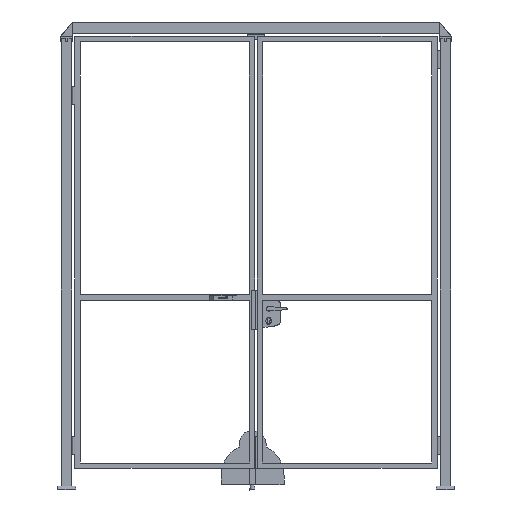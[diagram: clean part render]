
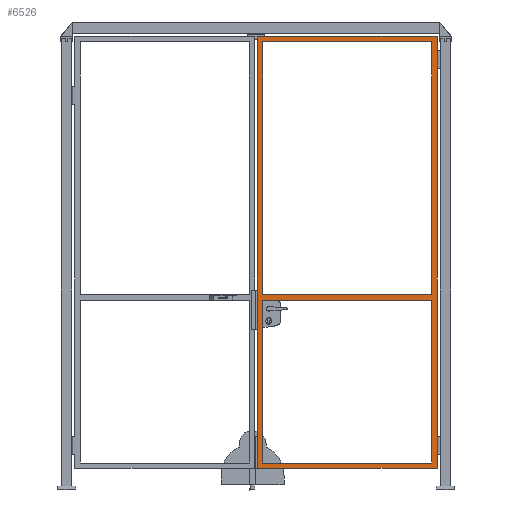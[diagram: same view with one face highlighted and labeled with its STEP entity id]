
A CAD part, front view. The second image highlights one B-rep face of the part: STEP entity #6526.
In plain terms, the highlighted planar face has unit normal (0, -1, 0) as drawn and (0, 1, 0) by its records, which use the part's own axes.
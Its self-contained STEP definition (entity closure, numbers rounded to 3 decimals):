
#805=FACE_BOUND('',#1289,.T.);
#806=FACE_BOUND('',#1290,.T.);
#949=FACE_OUTER_BOUND('',#1288,.T.);
#1288=EDGE_LOOP('',(#5035,#5036,#5037,#5038));
#1289=EDGE_LOOP('',(#5039,#5040,#5041,#5042));
#1290=EDGE_LOOP('',(#5043,#5044,#5045,#5046));
#1787=LINE('',#9704,#2530);
#1789=LINE('',#9710,#2532);
#1794=LINE('',#9719,#2537);
#1804=LINE('',#9739,#2547);
#1808=LINE('',#9746,#2551);
#1809=LINE('',#9748,#2552);
#1810=LINE('',#9750,#2553);
#1811=LINE('',#9752,#2554);
#1813=LINE('',#9757,#2556);
#1817=LINE('',#9764,#2560);
#1818=LINE('',#9766,#2561);
#1819=LINE('',#9768,#2562);
#2530=VECTOR('',#7781,1.);
#2532=VECTOR('',#7785,1.);
#2537=VECTOR('',#7792,1.);
#2547=VECTOR('',#7806,1.);
#2551=VECTOR('',#7812,1.);
#2552=VECTOR('',#7815,1.);
#2553=VECTOR('',#7818,1.);
#2554=VECTOR('',#7821,1.);
#2556=VECTOR('',#7825,1.);
#2560=VECTOR('',#7831,1.);
#2561=VECTOR('',#7834,1.);
#2562=VECTOR('',#7837,1.);
#3199=VERTEX_POINT('',#9698);
#3201=VERTEX_POINT('',#9702);
#3202=VERTEX_POINT('',#9706);
#3204=VERTEX_POINT('',#9709);
#3207=VERTEX_POINT('',#9717);
#3215=VERTEX_POINT('',#9738);
#3216=VERTEX_POINT('',#9742);
#3217=VERTEX_POINT('',#9744);
#3218=VERTEX_POINT('',#9754);
#3219=VERTEX_POINT('',#9756);
#3220=VERTEX_POINT('',#9760);
#3221=VERTEX_POINT('',#9762);
#3891=EDGE_CURVE('',#3201,#3199,#1787,.T.);
#3893=EDGE_CURVE('',#3202,#3204,#1789,.T.);
#3898=EDGE_CURVE('',#3202,#3207,#1794,.T.);
#3908=EDGE_CURVE('',#3215,#3204,#1804,.T.);
#3912=EDGE_CURVE('',#3216,#3217,#1808,.T.);
#3913=EDGE_CURVE('',#3207,#3215,#1809,.T.);
#3914=EDGE_CURVE('',#3217,#3199,#1810,.T.);
#3915=EDGE_CURVE('',#3201,#3216,#1811,.T.);
#3917=EDGE_CURVE('',#3218,#3219,#1813,.T.);
#3921=EDGE_CURVE('',#3221,#3220,#1817,.T.);
#3922=EDGE_CURVE('',#3219,#3221,#1818,.T.);
#3923=EDGE_CURVE('',#3218,#3220,#1819,.T.);
#5035=ORIENTED_EDGE('',*,*,#3922,.F.);
#5036=ORIENTED_EDGE('',*,*,#3917,.F.);
#5037=ORIENTED_EDGE('',*,*,#3923,.T.);
#5038=ORIENTED_EDGE('',*,*,#3921,.F.);
#5039=ORIENTED_EDGE('',*,*,#3898,.T.);
#5040=ORIENTED_EDGE('',*,*,#3913,.T.);
#5041=ORIENTED_EDGE('',*,*,#3908,.T.);
#5042=ORIENTED_EDGE('',*,*,#3893,.F.);
#5043=ORIENTED_EDGE('',*,*,#3891,.F.);
#5044=ORIENTED_EDGE('',*,*,#3915,.T.);
#5045=ORIENTED_EDGE('',*,*,#3912,.T.);
#5046=ORIENTED_EDGE('',*,*,#3914,.T.);
#6268=PLANE('',#6915);
#6526=ADVANCED_FACE('',(#949,#805,#806),#6268,.F.);
#6915=AXIS2_PLACEMENT_3D('',#9767,#7835,#7836);
#7781=DIRECTION('',(-1.,0.,0.));
#7785=DIRECTION('',(1.,0.,0.));
#7792=DIRECTION('',(0.,0.,-1.));
#7806=DIRECTION('',(0.,0.,1.));
#7812=DIRECTION('',(-1.,0.,0.));
#7815=DIRECTION('',(1.,0.,0.));
#7818=DIRECTION('',(0.,0.,-1.));
#7821=DIRECTION('',(0.,0.,1.));
#7825=DIRECTION('',(-1.,0.,0.));
#7831=DIRECTION('',(1.,0.,0.));
#7834=DIRECTION('',(0.,0.,-1.));
#7835=DIRECTION('center_axis',(0.,-1.,0.));
#7836=DIRECTION('ref_axis',(0.,0.,-1.));
#7837=DIRECTION('',(0.,0.,-1.));
#9698=CARTESIAN_POINT('',(30.,30.,965.));
#9702=CARTESIAN_POINT('',(970.,30.,965.));
#9704=CARTESIAN_POINT('',(500.,30.,965.));
#9706=CARTESIAN_POINT('',(30.,30.,935.));
#9709=CARTESIAN_POINT('',(970.,30.,935.));
#9710=CARTESIAN_POINT('',(500.,30.,935.));
#9717=CARTESIAN_POINT('',(30.,30.,30.));
#9719=CARTESIAN_POINT('',(30.,30.,1200.));
#9738=CARTESIAN_POINT('',(970.,30.,30.));
#9739=CARTESIAN_POINT('',(970.,30.,1200.));
#9742=CARTESIAN_POINT('',(970.,30.,2370.));
#9744=CARTESIAN_POINT('',(30.,30.,2370.));
#9746=CARTESIAN_POINT('',(500.,30.,2370.));
#9748=CARTESIAN_POINT('',(500.,30.,30.));
#9750=CARTESIAN_POINT('',(30.,30.,1200.));
#9752=CARTESIAN_POINT('',(970.,30.,1200.));
#9754=CARTESIAN_POINT('',(1000.,30.,2400.));
#9756=CARTESIAN_POINT('',(0.,30.,2400.));
#9757=CARTESIAN_POINT('',(500.,30.,2400.));
#9760=CARTESIAN_POINT('',(1000.,30.,0.));
#9762=CARTESIAN_POINT('',(0.,30.,0.));
#9764=CARTESIAN_POINT('',(500.,30.,0.));
#9766=CARTESIAN_POINT('',(0.,30.,1200.));
#9767=CARTESIAN_POINT('Origin',(500.,30.,1200.));
#9768=CARTESIAN_POINT('',(1000.,30.,1200.));
